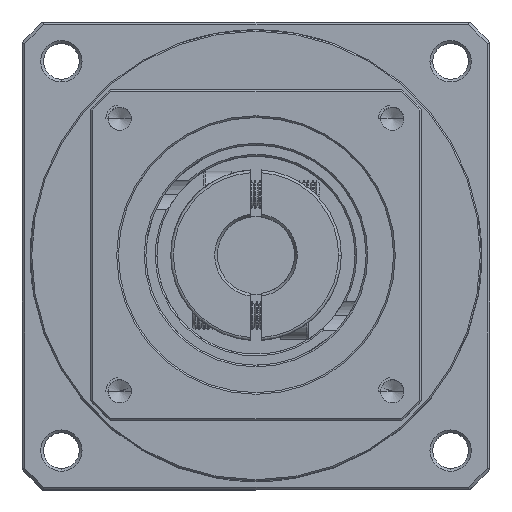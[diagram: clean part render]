
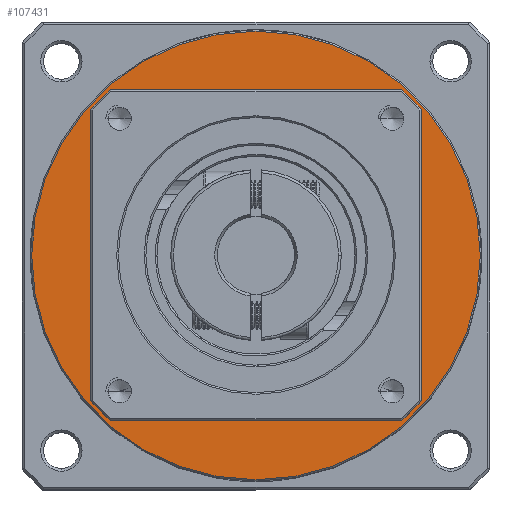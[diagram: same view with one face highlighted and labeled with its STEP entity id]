
A CAD part, top view. The second image highlights one B-rep face of the part: STEP entity #107431.
In plain terms, the highlighted planar face has unit normal (0, 0, 1).
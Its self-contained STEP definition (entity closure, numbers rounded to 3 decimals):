
#5840 = VERTEX_POINT ( 'NONE', #83638 ) ;
#9557 = EDGE_LOOP ( 'NONE', ( #50682, #10240 ) ) ;
#9832 = CARTESIAN_POINT ( 'NONE',  ( -65.62, 20.48, -16.146 ) ) ;
#10240 = ORIENTED_EDGE ( 'NONE', *, *, #77617, .F. ) ;
#17045 = DIRECTION ( 'NONE',  ( 0., 0., -1. ) ) ;
#18643 = DIRECTION ( 'NONE',  ( 1., 0., 0. ) ) ;
#19944 = CIRCLE ( 'NONE', #68239, 30. ) ;
#20280 = FACE_BOUND ( 'NONE', #97927, .T. ) ;
#21064 = CARTESIAN_POINT ( 'NONE',  ( -35.62, 20.48, -16.146 ) ) ;
#26826 = AXIS2_PLACEMENT_3D ( 'NONE', #34267, #95221, #43029 ) ;
#32014 = ORIENTED_EDGE ( 'NONE', *, *, #47050, .T. ) ;
#34267 = CARTESIAN_POINT ( 'NONE',  ( -65.62, 20.48, -16.146 ) ) ;
#38231 = EDGE_CURVE ( 'NONE', #70483, #89453, #92146, .T. ) ;
#38651 = AXIS2_PLACEMENT_3D ( 'NONE', #41231, #102199, #50024 ) ;
#38881 = CARTESIAN_POINT ( 'NONE',  ( -65.62, 20.48, -16.146 ) ) ;
#41231 = CARTESIAN_POINT ( 'NONE',  ( -65.62, 20.48, -16.146 ) ) ;
#41788 = AXIS2_PLACEMENT_3D ( 'NONE', #9832, #71084, #18643 ) ;
#42638 = CARTESIAN_POINT ( 'NONE',  ( -65.62, -20.27, -16.146 ) ) ;
#43029 = DIRECTION ( 'NONE',  ( 0., 1., 0. ) ) ;
#47050 = EDGE_CURVE ( 'NONE', #5840, #85345, #76330, .T. ) ;
#47678 = DIRECTION ( 'NONE',  ( -1., 0., 0. ) ) ;
#50024 = DIRECTION ( 'NONE',  ( 0., 1., 0. ) ) ;
#50682 = ORIENTED_EDGE ( 'NONE', *, *, #38231, .F. ) ;
#65417 = ORIENTED_EDGE ( 'NONE', *, *, #108157, .T. ) ;
#68239 = AXIS2_PLACEMENT_3D ( 'NONE', #69514, #17045, #78179 ) ;
#69514 = CARTESIAN_POINT ( 'NONE',  ( -65.62, 20.48, -16.146 ) ) ;
#70483 = VERTEX_POINT ( 'NONE', #76543 ) ;
#71084 = DIRECTION ( 'NONE',  ( 0., 0., 1. ) ) ;
#76330 = CIRCLE ( 'NONE', #108527, 30. ) ;
#76543 = CARTESIAN_POINT ( 'NONE',  ( -65.62, 61.23, -16.146 ) ) ;
#77617 = EDGE_CURVE ( 'NONE', #89453, #70483, #89664, .T. ) ;
#78179 = DIRECTION ( 'NONE',  ( -1., 0., 0. ) ) ;
#83638 = CARTESIAN_POINT ( 'NONE',  ( -95.62, 20.48, -16.146 ) ) ;
#85345 = VERTEX_POINT ( 'NONE', #21064 ) ;
#88182 = PLANE ( 'NONE',  #41788 ) ;
#89453 = VERTEX_POINT ( 'NONE', #42638 ) ;
#89664 = CIRCLE ( 'NONE', #26826, 40.75 ) ;
#89968 = FACE_OUTER_BOUND ( 'NONE', #9557, .T. ) ;
#92146 = CIRCLE ( 'NONE', #38651, 40.75 ) ;
#95221 = DIRECTION ( 'NONE',  ( 0., 0., -1. ) ) ;
#97927 = EDGE_LOOP ( 'NONE', ( #32014, #65417 ) ) ;
#99861 = DIRECTION ( 'NONE',  ( 0., 0., -1. ) ) ;
#102199 = DIRECTION ( 'NONE',  ( 0., 0., -1. ) ) ;
#107431 = ADVANCED_FACE ( 'NONE', ( #89968, #20280 ), #88182, .T. ) ;
#108157 = EDGE_CURVE ( 'NONE', #85345, #5840, #19944, .T. ) ;
#108527 = AXIS2_PLACEMENT_3D ( 'NONE', #38881, #99861, #47678 ) ;
